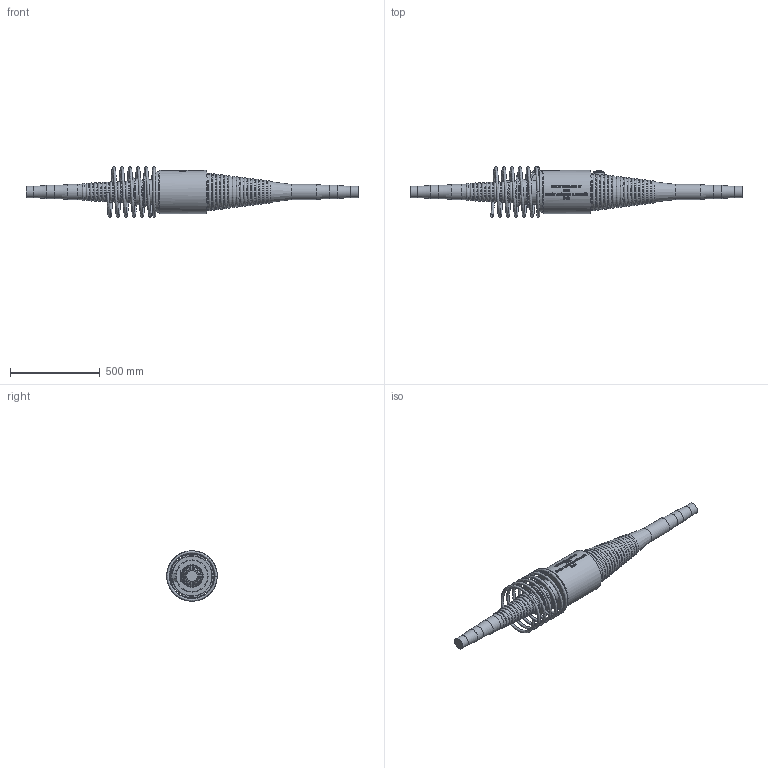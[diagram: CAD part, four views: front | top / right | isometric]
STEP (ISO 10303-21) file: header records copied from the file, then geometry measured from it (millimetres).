
FILE_DESCRIPTION(/* description */ (''),/* implementation_level */ '2;1');
FILE_NAME(/* name */ 'BBR VT CONA CMI BT 1206_Coupler H Assembly_CS-43,35_Helix.stp',/* time_stamp */ '2024-10-31T10:48:51+01:00',/* author */ ('tk'),/* organization */ (''),/* preprocessor_version */ 'ST-DEVELOPER v20',/* originating_system */ 'Autodesk Inventor 2024',/* authorisation */ '');
FILE_SCHEMA (('AUTOMOTIVE_DESIGN { 1 0 10303 214 3 1 1 }'));
Products named in the file (1): BBR VT CONA CMI BT 1206_Coupler H Assembly_CS-43,35_Helix
Bounding box: 1844.56 x 279.99 x 280 mm (x, y, z)
Volume: 29993154.8 mm3; surface area: 1105369.7 mm2
Topology: 2 solids, 2 shells, 996 faces, 2613 edges, 1695 vertices
Faces by surface type: bspline 389, plane 348, torus 106, cylinder 95, cone 34, sphere 24
Full cylindrical faces by diameter (mm): 34 x1, 57 x2, 64 x1, 64.013 x1, 74 x1, 74.013 x1, 84 x1, 84.013 x1, 177.282 x1, 178.841 x1, 240 x1
Entity records: 45317 total; most frequent: CARTESIAN_POINT 21692, ORIENTED_EDGE 5226, DIRECTION 3823, EDGE_CURVE 2613, VERTEX_POINT 1695, AXIS2_PLACEMENT_3D 1386, EDGE_LOOP 1072, LINE 1051
